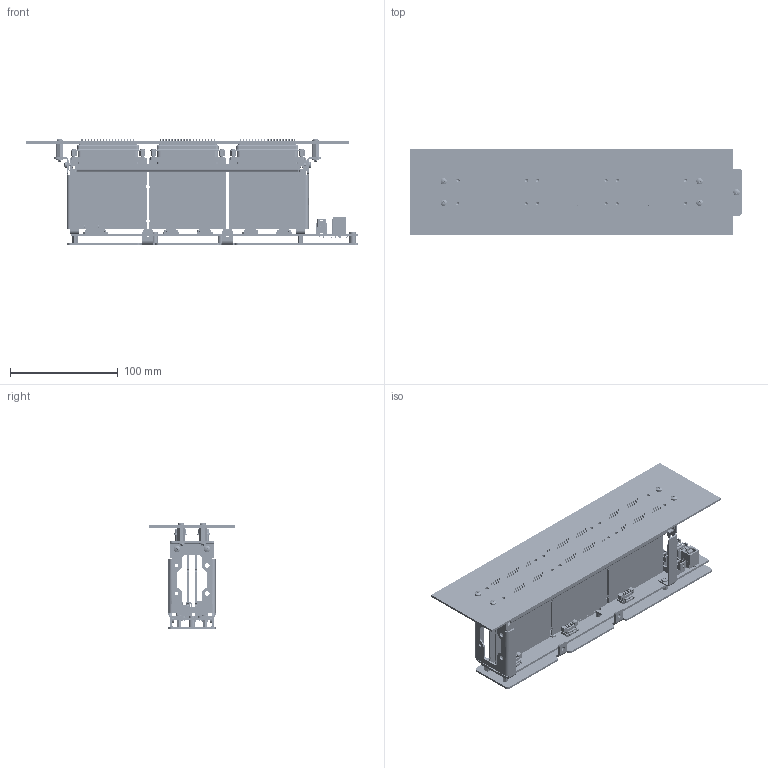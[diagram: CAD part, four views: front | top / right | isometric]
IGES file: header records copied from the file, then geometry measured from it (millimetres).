
Start section:  PTC IGES file: cf.igs
Global section: file name: cf.igs; native system: Creo Parametric by PTC Inc.; preprocessor: 2021063; author: kleong; organization: Unknown; date: 20220624.141901; units: millimetre
Bounding box: 308 x 80 x 98.42 mm (x, y, z)
Surface area: 258429.3 mm2 (no closed solid volume)
Topology: 0 solids, 0 shells, 19936 faces, 110570 edges, 110100 vertices
Faces by surface type: bspline 14316, revolution 5536, extrusion 84
